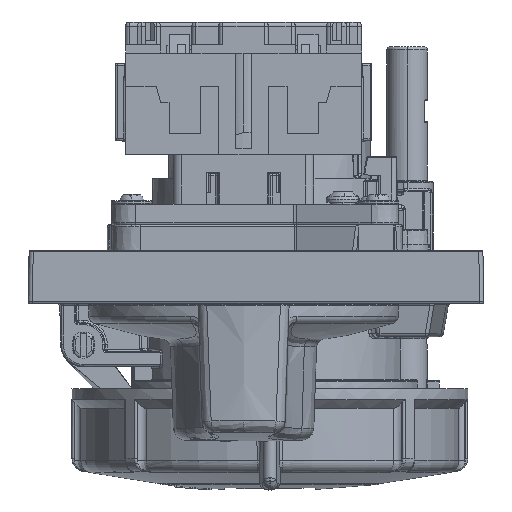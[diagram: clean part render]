
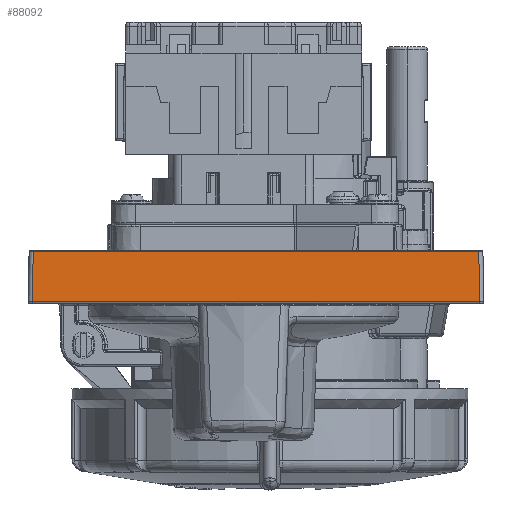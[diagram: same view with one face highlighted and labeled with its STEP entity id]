
A CAD part, left-side view. The second image highlights one B-rep face of the part: STEP entity #88092.
In plain terms, the highlighted planar face has unit normal (-1, 0, 0.018).
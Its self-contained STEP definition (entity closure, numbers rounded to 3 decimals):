
#5218=DIRECTION('',(0.,-1.,0.));
#5219=VECTOR('',#5218,107.558);
#5220=CARTESIAN_POINT('',(-99.779,51.779,12.664));
#5221=LINE('5079',#5220,#5219);
#5446=DIRECTION('',(0.017,-0.017,1.));
#5447=VECTOR('',#5446,12.159);
#5448=CARTESIAN_POINT('',(-99.991,51.991,
0.509));
#5449=LINE('4788',#5448,#5447);
#5647=DIRECTION('',(0.,1.,0.));
#5648=VECTOR('',#5647,107.983);
#5649=CARTESIAN_POINT('',(-99.991,-55.991,
0.509));
#5650=LINE('4778',#5649,#5648);
#5660=DIRECTION('',(0.017,0.017,1.));
#5661=VECTOR('',#5660,12.159);
#5662=CARTESIAN_POINT('',(-99.991,-55.991,
0.509));
#5663=LINE('4781',#5662,#5661);
#5704=CARTESIAN_POINT('',(-99.991,-55.991,
0.509));
#67199=VERTEX_POINT('',#5704);
#67200=CARTESIAN_POINT('',(-99.991,51.991,
0.509));
#67201=VERTEX_POINT('',#67200);
#67203=CARTESIAN_POINT('',(-99.779,-55.779,
12.664));
#67204=VERTEX_POINT('',#67203);
#67217=CARTESIAN_POINT('',(-99.779,51.779,
12.664));
#67218=VERTEX_POINT('',#67217);
#88080=CARTESIAN_POINT('',(-100.,55.2,0.));
#88081=DIRECTION('',(-1.,0.,0.017));
#88082=DIRECTION('',(0.,1.,0.));
#88083=AXIS2_PLACEMENT_3D('',#88080,#88081,#88082);
#88084=PLANE('283',#88083);
#88085=ORIENTED_EDGE('4778',*,*,#88072,.T.);
#88086=ORIENTED_EDGE('4788',*,*,#87757,.T.);
#88087=ORIENTED_EDGE('5079',*,*,#87451,.T.);
#88089=ORIENTED_EDGE('4781',*,*,#88088,.F.);
#88090=EDGE_LOOP('283',(#88085,#88086,#88087,#88089));
#88091=FACE_OUTER_BOUND('283',#88090,.F.);
#87451=EDGE_CURVE('5079',#67218,#67204,#5221,.T.);
#87757=EDGE_CURVE('4788',#67201,#67218,#5449,.T.);
#88072=EDGE_CURVE('4778',#67199,#67201,#5650,.T.);
#88088=EDGE_CURVE('4781',#67199,#67204,#5663,.T.);
#88092=ADVANCED_FACE('283',(#88091),#88084,.T.);
